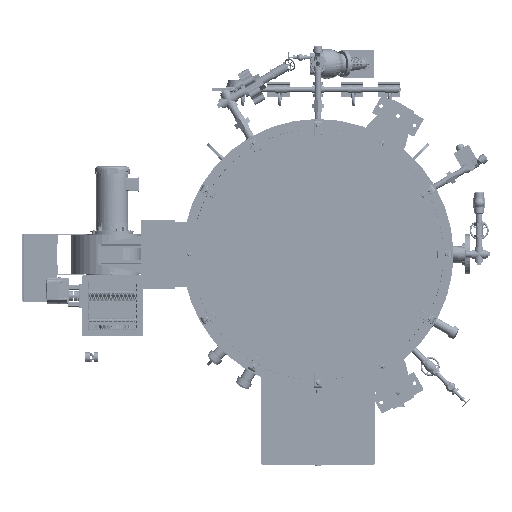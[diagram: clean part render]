
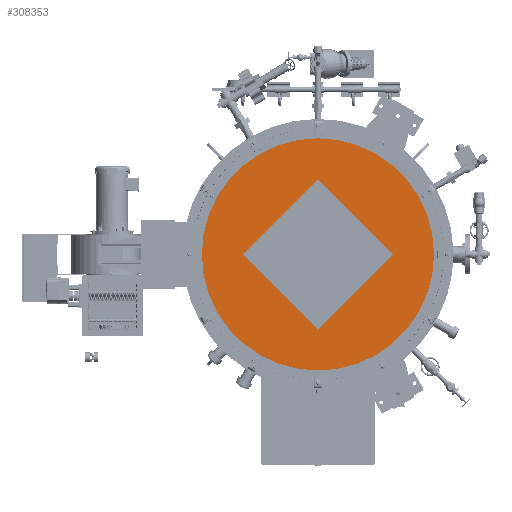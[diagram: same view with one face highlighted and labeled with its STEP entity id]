
A CAD part, front view. The second image highlights one B-rep face of the part: STEP entity #308353.
In plain terms, the highlighted planar face has unit normal (0, -1, 0).
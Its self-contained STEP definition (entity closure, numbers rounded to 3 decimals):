
#9642=FACE_BOUND('',#59775,.T.);
#25377=CIRCLE('',#329505,24.);
#41009=FACE_OUTER_BOUND('',#59774,.T.);
#59774=EDGE_LOOP('',(#205486));
#59775=EDGE_LOOP('',(#205487,#205488,#205489,#205490));
#81628=LINE('',#457764,#104268);
#81632=LINE('',#457772,#104272);
#81635=LINE('',#457778,#104275);
#81638=LINE('',#457783,#104278);
#104268=VECTOR('',#363447,0.394);
#104272=VECTOR('',#363453,0.394);
#104275=VECTOR('',#363458,0.394);
#104278=VECTOR('',#363463,0.394);
#127001=VERTEX_POINT('',#457762);
#127002=VERTEX_POINT('',#457763);
#127005=VERTEX_POINT('',#457771);
#127007=VERTEX_POINT('',#457777);
#127009=VERTEX_POINT('',#457787);
#157680=EDGE_CURVE('',#127001,#127002,#81628,.T.);
#157684=EDGE_CURVE('',#127002,#127005,#81632,.T.);
#157687=EDGE_CURVE('',#127005,#127007,#81635,.T.);
#157690=EDGE_CURVE('',#127007,#127001,#81638,.T.);
#157692=EDGE_CURVE('',#127009,#127009,#25377,.T.);
#205486=ORIENTED_EDGE('',*,*,#157692,.T.);
#205487=ORIENTED_EDGE('',*,*,#157680,.T.);
#205488=ORIENTED_EDGE('',*,*,#157684,.T.);
#205489=ORIENTED_EDGE('',*,*,#157687,.T.);
#205490=ORIENTED_EDGE('',*,*,#157690,.T.);
#299742=PLANE('',#329504);
#308353=ADVANCED_FACE('',(#41009,#9642),#299742,.T.);
#329504=AXIS2_PLACEMENT_3D('',#457786,#363467,#363468);
#329505=AXIS2_PLACEMENT_3D('',#457788,#363469,#363470);
#363447=DIRECTION('',(-0.707,0.,-0.707));
#363453=DIRECTION('',(-0.707,0.,0.707));
#363458=DIRECTION('',(0.707,0.,0.707));
#363463=DIRECTION('',(0.707,0.,-0.707));
#363467=DIRECTION('center_axis',(0.,-1.,0.));
#363468=DIRECTION('ref_axis',(0.,0.,-1.));
#363469=DIRECTION('center_axis',(0.,-1.,0.));
#363470=DIRECTION('ref_axis',(1.,0.,0.));
#457762=CARTESIAN_POINT('',(15.556,0.,0.));
#457763=CARTESIAN_POINT('',(0.,0.,-15.556));
#457764=CARTESIAN_POINT('',(3.889,0.,-11.667));
#457771=CARTESIAN_POINT('',(-15.556,0.,0.));
#457772=CARTESIAN_POINT('',(-11.667,0.,-3.889));
#457777=CARTESIAN_POINT('',(0.,0.,15.556));
#457778=CARTESIAN_POINT('',(-3.889,0.,11.667));
#457783=CARTESIAN_POINT('',(11.667,0.,3.889));
#457786=CARTESIAN_POINT('Origin',(0.,0.,0.));
#457787=CARTESIAN_POINT('',(0.,0.,
24.));
#457788=CARTESIAN_POINT('Origin',(0.,0.,0.));
